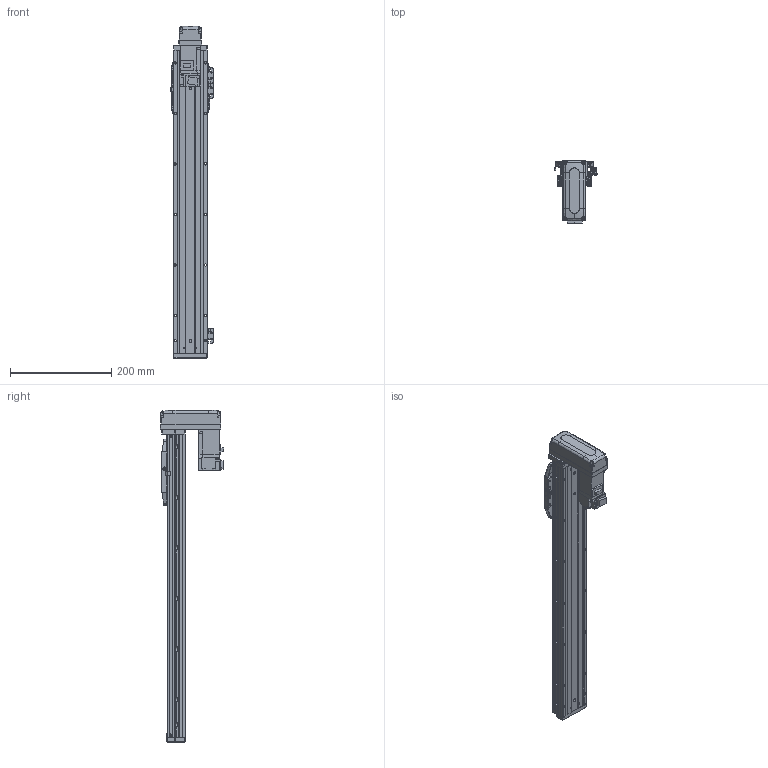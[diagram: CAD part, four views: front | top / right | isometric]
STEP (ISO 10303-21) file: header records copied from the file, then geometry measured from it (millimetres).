
FILE_DESCRIPTION (( 'STEP AP203' ), '1' );
FILE_NAME ('CTHA60-450-BM-M10-C4L.step', '2022-03-19T06:17:45', ( '微软用户' ), ( '微软中国' ), 'SwSTEP 2.0', 'SolidWorks 2020', '' );
FILE_SCHEMA (( 'CONFIG_CONTROL_DESIGN' ));
Length unit declared in the file: millimetre
Products named in the file (18): CTHA60-017; HG-KR13（三菱）; CTHA60-021; CTHA60-002; CTHA60-001_600; GBT 70.1-M4×16; CTHA60-031; CTHA60-004; GBT77-2000 M3×3; CTHA60-006-1; CTHA60-005; GBT 70.1-M3℅6; CTHA60-033; GB¨uT 70.2-M3¡Á6_M3¡Á6; GBT 70.3-M3℅6; CTHA60-450-BM-M10-C4L; EE_SX911P_R; CTHA60-016
Assembly tree (54 placements, depth 2):
  CTHA60-450-BM-M10-C4L
    CTHA60-001_600
    CTHA60-004
    CTHA60-005
    GB¨uT 70.2-M3¡Á6_M3¡Á6  x10
    EE_SX911P_R  x3
    CTHA60-017  x3
    CTHA60-021  x2
    GBT 70.1-M4×16  x10
    GBT77-2000 M3×3  x6
    GBT 70.1-M3℅6  x6
    GBT 70.3-M3℅6  x4
    CTHA60-016  x2
    HG-KR13（三菱）
    CTHA60-002
    CTHA60-031
    CTHA60-006-1
    CTHA60-033
Bounding box: 83.12 x 125.3 x 657 mm (x, y, z)
Volume: 1188559.7 mm3; surface area: 363735.8 mm2
Topology: 56 solids, 56 shells, 2514 faces, 6037 edges, 3721 vertices
Faces by surface type: plane 1449, cylinder 577, cone 340, torus 92, bspline 32, sphere 24
Entity records: 45011 total; most frequent: CARTESIAN_POINT 8698, DIRECTION 6946, ORIENTED_EDGE 6882, EDGE_CURVE 3441, LINE 2442, VECTOR 2442, AXIS2_PLACEMENT_3D 2252, VERTEX_POINT 2180
